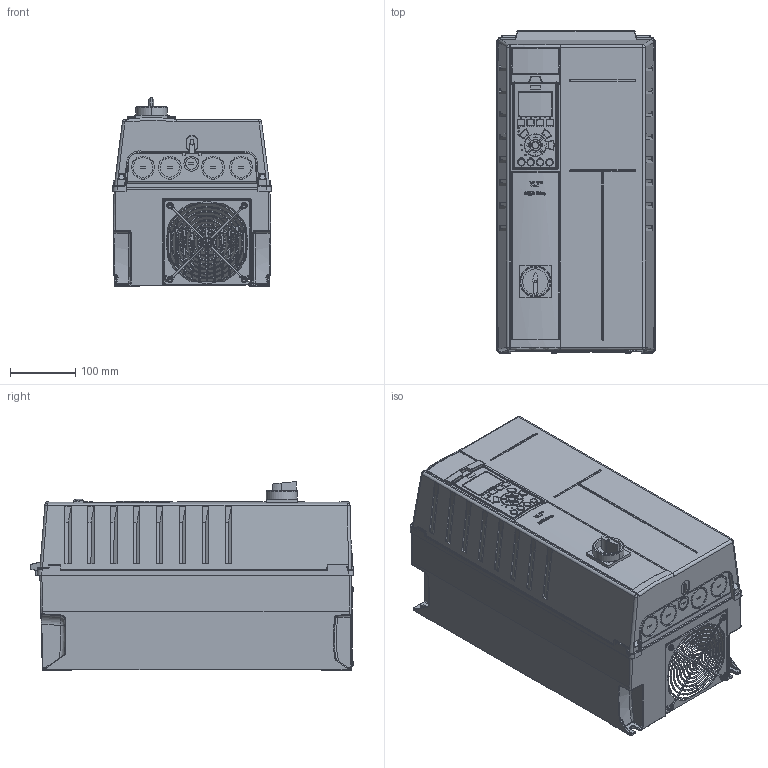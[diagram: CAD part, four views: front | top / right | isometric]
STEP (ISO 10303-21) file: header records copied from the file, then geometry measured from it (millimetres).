
FILE_DESCRIPTION((''),'2;1');
FILE_NAME('DANFOSS-FC200-B1-IP21-SWITCH','2011-10-27T',('cstephenkumar'),('Be-Atch INC. 1993'),'PRO/ENGINEER BY PARAMETRIC TECHNOLOGY CORPORATION, 2009360','PRO/ENGINEER BY PARAMETRIC TECHNOLOGY CORPORATION, 2009360','');
FILE_SCHEMA(('AUTOMOTIVE_DESIGN { 1 0 10303 214 1 1 1 1 }'));
Products named in the file (1): DANFOSS-FC200-B1-IP21-SWITCH
Bounding box: 242.5 x 493.94 x 288.78 mm (x, y, z)
Volume: 21104091.8 mm3; surface area: 1570613.1 mm2
Topology: 1 solids, 20 shells, 4006 faces, 10158 edges, 6206 vertices
Faces by surface type: plane 1376, cylinder 1233, bspline 924, torus 235, cone 151, sphere 57, extrusion 30
Entity records: 163448 total; most frequent: CARTESIAN_POINT 71082, ORIENTED_EDGE 20190, DIRECTION 15344, EDGE_CURVE 10095, VERTEX_POINT 6206, AXIS2_PLACEMENT_3D 5339, VECTOR 4666, LINE 4636
